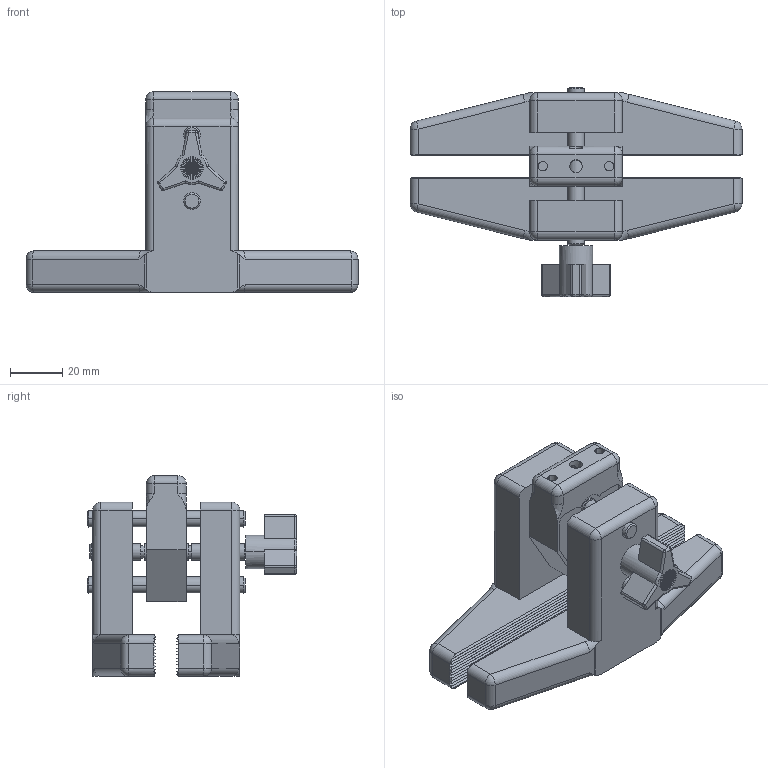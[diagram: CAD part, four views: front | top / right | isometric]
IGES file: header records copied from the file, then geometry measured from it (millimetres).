
Global section: file name: No Iges File Name specified; native system: Autodesk Inventor 2010; preprocessor: AutoDesk Inventor Iges Exporter R2010; author: mlampen; date: 20170419.133209; units: inch
Bounding box: 127 x 80.04 x 76.83 mm (x, y, z)
Volume: 156532.4 mm3; surface area: 47891.2 mm2
Topology: 10 solids, 16 shells, 944 faces, 2749 edges, 1880 vertices
Faces by surface type: plane 327, cylinder 281, revolution 217, cone 46, bspline 40, sphere 22, torus 11
Full cylindrical faces by diameter (mm): 2.474 x60, 3.505 x40
